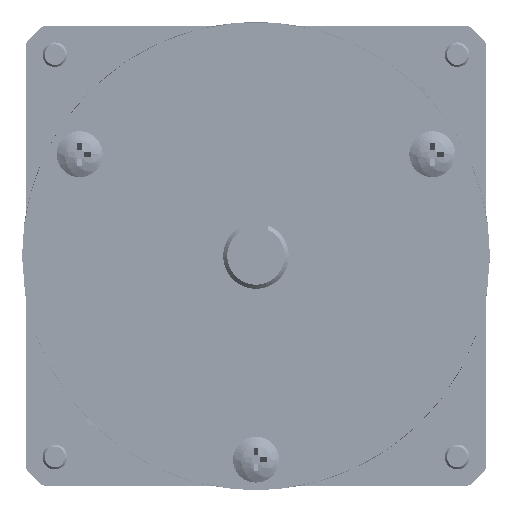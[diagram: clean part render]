
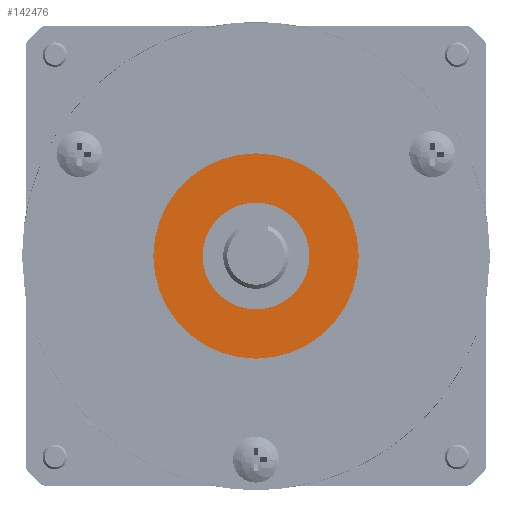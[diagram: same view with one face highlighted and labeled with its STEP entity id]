
A CAD part, front view. The second image highlights one B-rep face of the part: STEP entity #142476.
In plain terms, the highlighted planar face has unit normal (0, -1, 0) as drawn and (-1, 0, 0) by its records, which use the part's own axes.
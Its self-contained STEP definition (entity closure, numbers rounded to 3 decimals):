
#141314=CARTESIAN_POINT('',(-52.6,0.,0.));
#141315=DIRECTION('',(1.,0.,0.));
#141316=DIRECTION('',(0.,-1.,0.));
#141317=AXIS2_PLACEMENT_3D('',#141314,#141315,#141316);
#141319=CARTESIAN_POINT('',(-52.6,0.,0.));
#141320=DIRECTION('',(1.,0.,0.));
#141321=DIRECTION('',(0.,1.,0.));
#141322=AXIS2_PLACEMENT_3D('',#141319,#141320,#141321);
#141324=CARTESIAN_POINT('',(-52.6,0.,0.));
#141325=DIRECTION('',(-1.,0.,0.));
#141326=DIRECTION('',(0.,-1.,0.));
#141327=AXIS2_PLACEMENT_3D('',#141324,#141325,#141326);
#141329=CARTESIAN_POINT('',(-52.6,0.,0.));
#141330=DIRECTION('',(-1.,0.,0.));
#141331=DIRECTION('',(0.,1.,0.));
#141332=AXIS2_PLACEMENT_3D('',#141329,#141330,#141331);
#142299=CARTESIAN_POINT('',(-52.6,12.5,0.));
#142301=VERTEX_POINT('',#142299);
#142305=CARTESIAN_POINT('',(-52.6,-12.5,0.));
#142306=VERTEX_POINT('',#142305);
#142307=CARTESIAN_POINT('',(-52.6,-6.5,0.));
#142308=CARTESIAN_POINT('',(-52.6,6.5,0.));
#142309=VERTEX_POINT('',#142307);
#142310=VERTEX_POINT('',#142308);
#142461=CARTESIAN_POINT('',(-52.6,0.,0.));
#142462=DIRECTION('',(1.,0.,0.));
#142463=DIRECTION('',(0.,-1.,0.));
#142464=AXIS2_PLACEMENT_3D('',#142461,#142462,#142463);
#142465=PLANE('',#142464);
#142466=ORIENTED_EDGE('',*,*,#142453,.T.);
#142467=ORIENTED_EDGE('',*,*,#142442,.T.);
#142468=EDGE_LOOP('',(#142466,#142467));
#142469=FACE_OUTER_BOUND('',#142468,.F.);
#142471=ORIENTED_EDGE('',*,*,#142470,.T.);
#142473=ORIENTED_EDGE('',*,*,#142472,.T.);
#142474=EDGE_LOOP('',(#142471,#142473));
#142475=FACE_BOUND('',#142474,.F.);
#141318=CIRCLE('',#141317,12.5);
#141323=CIRCLE('',#141322,12.5);
#141328=CIRCLE('',#141327,6.5);
#141333=CIRCLE('',#141332,6.5);
#142442=EDGE_CURVE('',#142301,#142306,#141323,.T.);
#142453=EDGE_CURVE('',#142306,#142301,#141318,.T.);
#142470=EDGE_CURVE('',#142309,#142310,#141328,.T.);
#142472=EDGE_CURVE('',#142310,#142309,#141333,.T.);
#142476=ADVANCED_FACE('',(#142469,#142475),#142465,.F.);
